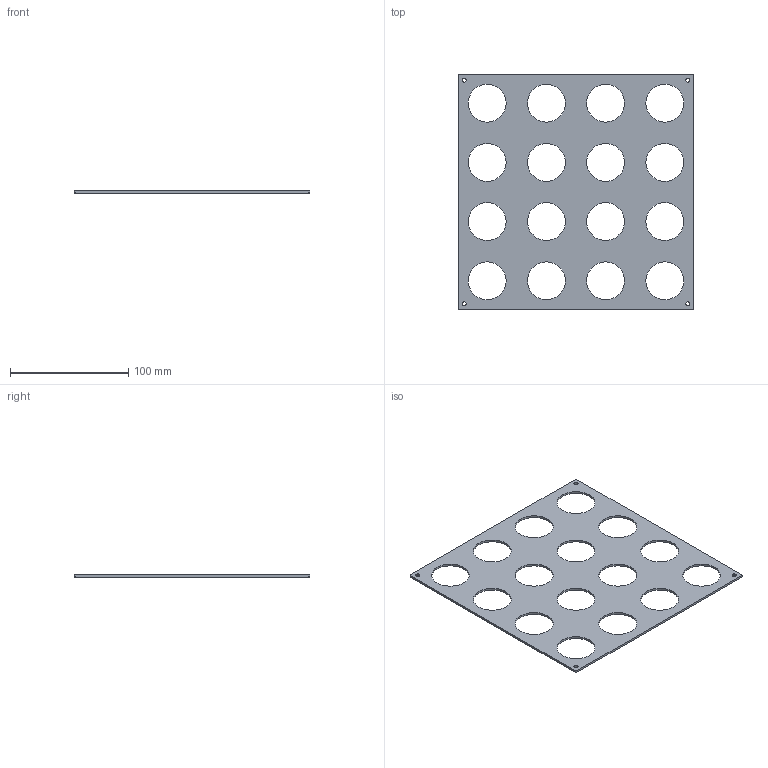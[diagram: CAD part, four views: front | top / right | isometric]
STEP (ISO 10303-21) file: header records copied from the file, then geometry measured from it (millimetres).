
FILE_DESCRIPTION(('Open CASCADE Model'),'2;1');
FILE_NAME('Open CASCADE Shape Model','2026-11-10T17:01:23',('Author'),( 'Open CASCADE'),'Open CASCADE STEP processor 7.9','Open CASCADE 7.9' ,'Unknown');
FILE_SCHEMA(('AUTOMOTIVE_DESIGN { 1 0 10303 214 1 1 1 1 }'));
Length unit declared in the file: millimetre
Products named in the file (2): T02_R3_optical_faceplate; 01_R3_optical_faceplate
Assembly tree (1 placements, depth 2):
  T02_R3_optical_faceplate
    01_R3_optical_faceplate
Bounding box: 198.8 x 198.8 x 1.8 mm (x, y, z)
Volume: 47909.3 mm3; surface area: 57633.1 mm2
Topology: 1 solids, 1 shells, 30 faces, 84 edges, 56 vertices
Faces by surface type: cylinder 24, plane 6
Full cylindrical faces by diameter (mm): 3.4 x4, 32 x16
Entity records: 2211 total; most frequent: DIRECTION 362, CARTESIAN_POINT 352, ORIENTED_EDGE 168, PCURVE 168, DEFINITIONAL_REPRESENTATION 168, LINE 156, VECTOR 156, CIRCLE 94
